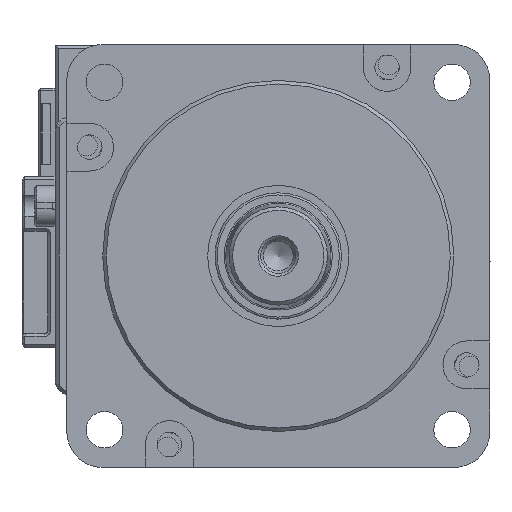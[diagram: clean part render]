
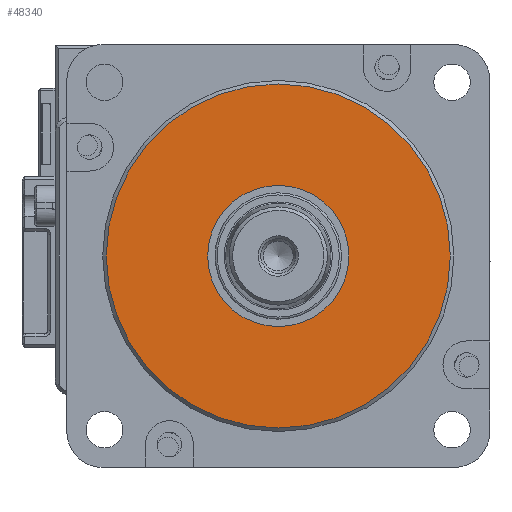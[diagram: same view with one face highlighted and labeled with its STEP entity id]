
A CAD part, left-side view. The second image highlights one B-rep face of the part: STEP entity #48340.
In plain terms, the highlighted planar face has unit normal (-1, 0, 0) as drawn and (0, 0, -1) by its records, which use the part's own axes.
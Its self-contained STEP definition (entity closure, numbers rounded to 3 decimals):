
#1562 = DIRECTION ( 'NONE',  ( 1., 0., 0. ) ) ;
#3518 = AXIS2_PLACEMENT_3D ( 'NONE', #42556, #30809, #6221 ) ;
#6221 = DIRECTION ( 'NONE',  ( 1., 0., 0. ) ) ;
#13310 = CARTESIAN_POINT ( 'NONE',  ( 0., 0., 0. ) ) ;
#13843 = EDGE_CURVE ( 'NONE', #43477, #43477, #18855, .T. ) ;
#16825 = CARTESIAN_POINT ( 'NONE',  ( 0., 0., 0. ) ) ;
#17883 = DIRECTION ( 'NONE',  ( 0., 0., 1. ) ) ;
#18855 = CIRCLE ( 'NONE', #3518, 24.5 ) ;
#20345 = AXIS2_PLACEMENT_3D ( 'NONE', #16825, #17883, #1562 ) ;
#20467 = CARTESIAN_POINT ( 'NONE',  ( 10.051, 0., 0. ) ) ;
#21161 = EDGE_LOOP ( 'NONE', ( #23715 ) ) ;
#21831 = DIRECTION ( 'NONE',  ( 1., 0., 0. ) ) ;
#22060 = CIRCLE ( 'NONE', #20345, 10.051 ) ;
#23715 = ORIENTED_EDGE ( 'NONE', *, *, #13843, .T. ) ;
#25999 = EDGE_CURVE ( 'NONE', #45593, #45593, #22060, .T. ) ;
#29075 = FACE_OUTER_BOUND ( 'NONE', #21161, .T. ) ;
#29600 = DIRECTION ( 'NONE',  ( 0., 0., 1. ) ) ;
#30809 = DIRECTION ( 'NONE',  ( 0., 0., -1. ) ) ;
#37357 = PLANE ( 'NONE',  #50830 ) ;
#42556 = CARTESIAN_POINT ( 'NONE',  ( 0., 0., 0. ) ) ;
#43477 = VERTEX_POINT ( 'NONE', #48016 ) ;
#45593 = VERTEX_POINT ( 'NONE', #20467 ) ;
#48016 = CARTESIAN_POINT ( 'NONE',  ( 24.5, 0., 0. ) ) ;
#48340 = ADVANCED_FACE ( 'NONE', ( #29075, #50150 ), #37357, .F. ) ;
#50150 = FACE_BOUND ( 'NONE', #50882, .T. ) ;
#50830 = AXIS2_PLACEMENT_3D ( 'NONE', #13310, #29600, #21831 ) ;
#50882 = EDGE_LOOP ( 'NONE', ( #51700 ) ) ;
#51700 = ORIENTED_EDGE ( 'NONE', *, *, #25999, .T. ) ;
